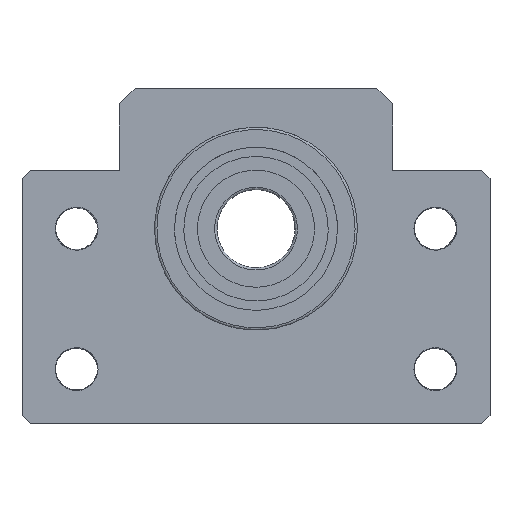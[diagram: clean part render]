
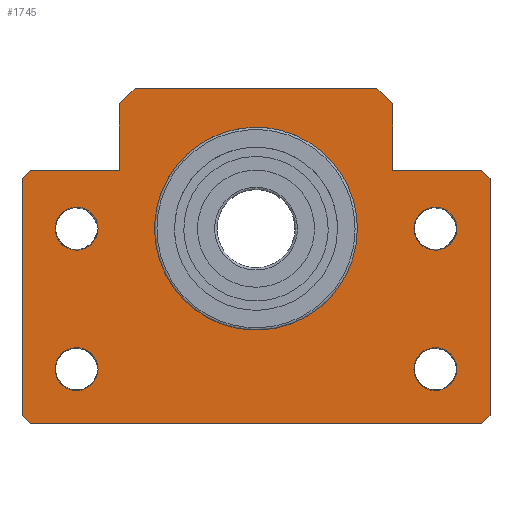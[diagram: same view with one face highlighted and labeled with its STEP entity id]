
A CAD part, front view. The second image highlights one B-rep face of the part: STEP entity #1745.
In plain terms, the highlighted free-form (B-spline) face has degree [1, 1] with [2, 2] control points.
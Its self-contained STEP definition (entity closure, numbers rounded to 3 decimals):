
#1022=CARTESIAN_POINT('',(30.,-23.95,0.));
#1023=VERTEX_POINT('',#1022);
#1024=CARTESIAN_POINT('',(28.95,-25.,0.));
#1025=VERTEX_POINT('',#1024);
#1026=CARTESIAN_POINT('',(30.,-23.95,0.));
#1027=CARTESIAN_POINT('',(28.95,-25.,0.));
#1028=B_SPLINE_CURVE_WITH_KNOTS('',1,(#1026,#1027),.POLYLINE_FORM.,.F.,.U.,(2,2),(0.,1.),.UNSPECIFIED.);
#1029=EDGE_CURVE('',#1023,#1025,#1028,.T.);
#1058=CARTESIAN_POINT('',(30.,6.45,0.));
#1059=VERTEX_POINT('',#1058);
#1060=CARTESIAN_POINT('',(30.,6.45,0.));
#1061=CARTESIAN_POINT('',(30.,-23.95,0.));
#1062=B_SPLINE_CURVE_WITH_KNOTS('',1,(#1060,#1061),.POLYLINE_FORM.,.F.,.U.,(2,2),(0.,1.),.UNSPECIFIED.);
#1063=EDGE_CURVE('',#1059,#1023,#1062,.T.);
#1086=CARTESIAN_POINT('',(-28.95,-25.,0.));
#1087=VERTEX_POINT('',#1086);
#1088=CARTESIAN_POINT('',(28.95,-25.,0.));
#1089=CARTESIAN_POINT('',(-28.95,-25.,0.));
#1090=B_SPLINE_CURVE_WITH_KNOTS('',1,(#1088,#1089),.POLYLINE_FORM.,.F.,.U.,(2,2),(0.,1.),.UNSPECIFIED.);
#1091=EDGE_CURVE('',#1025,#1087,#1090,.T.);
#1146=CARTESIAN_POINT('',(-30.,-23.95,0.));
#1147=VERTEX_POINT('',#1146);
#1148=CARTESIAN_POINT('',(-30.,6.45,0.));
#1149=VERTEX_POINT('',#1148);
#1150=CARTESIAN_POINT('',(-30.,-23.95,0.));
#1151=CARTESIAN_POINT('',(-30.,6.45,0.));
#1152=B_SPLINE_CURVE_WITH_KNOTS('',1,(#1150,#1151),.POLYLINE_FORM.,.F.,.U.,(2,2),(0.,1.),.UNSPECIFIED.);
#1153=EDGE_CURVE('',#1147,#1149,#1152,.T.);
#1182=CARTESIAN_POINT('',(-28.95,-25.,0.));
#1183=CARTESIAN_POINT('',(-30.,-23.95,0.));
#1184=B_SPLINE_CURVE_WITH_KNOTS('',1,(#1182,#1183),.POLYLINE_FORM.,.F.,.U.,(2,2),(0.,1.),.UNSPECIFIED.);
#1185=EDGE_CURVE('',#1087,#1147,#1184,.T.);
#1202=CARTESIAN_POINT('',(28.95,7.5,0.));
#1203=VERTEX_POINT('',#1202);
#1204=CARTESIAN_POINT('',(28.95,7.5,0.));
#1205=CARTESIAN_POINT('',(30.,6.45,0.));
#1206=B_SPLINE_CURVE_WITH_KNOTS('',1,(#1204,#1205),.POLYLINE_FORM.,.F.,.U.,(2,2),(0.,1.),.UNSPECIFIED.);
#1207=EDGE_CURVE('',#1203,#1059,#1206,.T.);
#1230=CARTESIAN_POINT('',(17.5,7.5,0.));
#1231=VERTEX_POINT('',#1230);
#1232=CARTESIAN_POINT('',(17.5,7.5,0.));
#1233=CARTESIAN_POINT('',(28.95,7.5,0.));
#1234=B_SPLINE_CURVE_WITH_KNOTS('',1,(#1232,#1233),.POLYLINE_FORM.,.F.,.U.,(2,2),(0.,1.),.UNSPECIFIED.);
#1235=EDGE_CURVE('',#1231,#1203,#1234,.T.);
#1274=CARTESIAN_POINT('',(17.5,16.,0.));
#1275=VERTEX_POINT('',#1274);
#1276=CARTESIAN_POINT('',(17.5,16.,0.));
#1277=CARTESIAN_POINT('',(17.5,7.5,0.));
#1278=B_SPLINE_CURVE_WITH_KNOTS('',1,(#1276,#1277),.POLYLINE_FORM.,.F.,.U.,(2,2),(0.,1.),.UNSPECIFIED.);
#1279=EDGE_CURVE('',#1275,#1231,#1278,.T.);
#1302=CARTESIAN_POINT('',(15.5,18.,0.));
#1303=VERTEX_POINT('',#1302);
#1304=CARTESIAN_POINT('',(15.5,18.,0.));
#1305=CARTESIAN_POINT('',(17.5,16.,0.));
#1306=B_SPLINE_CURVE_WITH_KNOTS('',1,(#1304,#1305),.POLYLINE_FORM.,.F.,.U.,(2,2),(0.,1.),.UNSPECIFIED.);
#1307=EDGE_CURVE('',#1303,#1275,#1306,.T.);
#1330=CARTESIAN_POINT('',(-15.5,18.,0.));
#1331=VERTEX_POINT('',#1330);
#1332=CARTESIAN_POINT('',(-15.5,18.,0.));
#1333=CARTESIAN_POINT('',(15.5,18.,0.));
#1334=B_SPLINE_CURVE_WITH_KNOTS('',1,(#1332,#1333),.POLYLINE_FORM.,.F.,.U.,(2,2),(0.,1.),.UNSPECIFIED.);
#1335=EDGE_CURVE('',#1331,#1303,#1334,.T.);
#1358=CARTESIAN_POINT('',(-17.5,16.,0.));
#1359=VERTEX_POINT('',#1358);
#1360=CARTESIAN_POINT('',(-17.5,16.,0.));
#1361=CARTESIAN_POINT('',(-15.5,18.,0.));
#1362=B_SPLINE_CURVE_WITH_KNOTS('',1,(#1360,#1361),.POLYLINE_FORM.,.F.,.U.,(2,2),(0.,1.),.UNSPECIFIED.);
#1363=EDGE_CURVE('',#1359,#1331,#1362,.T.);
#1386=CARTESIAN_POINT('',(-17.5,7.5,0.));
#1387=VERTEX_POINT('',#1386);
#1388=CARTESIAN_POINT('',(-17.5,7.5,0.));
#1389=CARTESIAN_POINT('',(-17.5,16.,0.));
#1390=B_SPLINE_CURVE_WITH_KNOTS('',1,(#1388,#1389),.POLYLINE_FORM.,.F.,.U.,(2,2),(0.,1.),.UNSPECIFIED.);
#1391=EDGE_CURVE('',#1387,#1359,#1390,.T.);
#1414=CARTESIAN_POINT('',(-28.95,7.5,0.));
#1415=VERTEX_POINT('',#1414);
#1416=CARTESIAN_POINT('',(-28.95,7.5,0.));
#1417=CARTESIAN_POINT('',(-17.5,7.5,0.));
#1418=B_SPLINE_CURVE_WITH_KNOTS('',1,(#1416,#1417),.POLYLINE_FORM.,.F.,.U.,(2,2),(0.,1.),.UNSPECIFIED.);
#1419=EDGE_CURVE('',#1415,#1387,#1418,.T.);
#1458=CARTESIAN_POINT('',(-30.,6.45,0.));
#1459=CARTESIAN_POINT('',(-28.95,7.5,0.));
#1460=B_SPLINE_CURVE_WITH_KNOTS('',1,(#1458,#1459),.POLYLINE_FORM.,.F.,.U.,(2,2),(0.,1.),.UNSPECIFIED.);
#1461=EDGE_CURVE('',#1149,#1415,#1460,.T.);
#1642=CARTESIAN_POINT('',(13.,0.,0.));
#1643=VERTEX_POINT('',#1642);
#1649=CARTESIAN_POINT('',(13.,0.,0.));
#1650=CARTESIAN_POINT('',(13.,-13.,0.));
#1651=CARTESIAN_POINT('',(0.,-13.,0.));
#1652=CARTESIAN_POINT('',(-13.,-13.,0.));
#1653=CARTESIAN_POINT('',(-13.,0.,0.));
#1654=CARTESIAN_POINT('',(-13.,13.,0.));
#1655=CARTESIAN_POINT('',(0.,13.,0.));
#1656=CARTESIAN_POINT('',(13.,13.,0.));
#1657=CARTESIAN_POINT('',(13.,0.,0.));
#1658=(BOUNDED_CURVE()B_SPLINE_CURVE(2,(#1649,#1650,#1651,#1652,#1653,#1654,#1655,#1656,#1657),.UNSPECIFIED.,.T.,.U.)B_SPLINE_CURVE_WITH_KNOTS((3,2,2,2,3),(0.,0.25,0.5,0.75,1.),.UNSPECIFIED.)CURVE()GEOMETRIC_REPRESENTATION_ITEM()RATIONAL_B_SPLINE_CURVE((1.,0.707,1.,0.707,1.,0.707,1.,0.707,1.))REPRESENTATION_ITEM(''));
#1659=EDGE_CURVE('',#1643,#1643,#1658,.T.);
#1665=CARTESIAN_POINT('',(-77.317,-77.317,0.));
#1666=CARTESIAN_POINT('',(-77.317,77.317,0.));
#1667=CARTESIAN_POINT('',(77.317,-77.317,0.));
#1668=CARTESIAN_POINT('',(77.317,77.317,0.));
#1669=B_SPLINE_SURFACE_WITH_KNOTS('',1,1,((#1665,#1666),(#1667,#1668)),.PLANE_SURF.,.F.,.F.,.U.,(2,2),(2,2),(0.,1.),(0.,1.),.UNSPECIFIED.);
#1670=ORIENTED_EDGE('',*,*,#1153,.F.);
#1671=ORIENTED_EDGE('',*,*,#1185,.F.);
#1672=ORIENTED_EDGE('',*,*,#1091,.F.);
#1673=ORIENTED_EDGE('',*,*,#1029,.F.);
#1674=ORIENTED_EDGE('',*,*,#1063,.F.);
#1675=ORIENTED_EDGE('',*,*,#1207,.F.);
#1676=ORIENTED_EDGE('',*,*,#1235,.F.);
#1677=ORIENTED_EDGE('',*,*,#1279,.F.);
#1678=ORIENTED_EDGE('',*,*,#1307,.F.);
#1679=ORIENTED_EDGE('',*,*,#1335,.F.);
#1680=ORIENTED_EDGE('',*,*,#1363,.F.);
#1681=ORIENTED_EDGE('',*,*,#1391,.F.);
#1682=ORIENTED_EDGE('',*,*,#1419,.F.);
#1683=ORIENTED_EDGE('',*,*,#1461,.F.);
#1684=EDGE_LOOP('',(#1670,#1671,#1672,#1673,#1674,#1675,#1676,#1677,#1678,#1679,#1680,#1681,#1682,#1683));
#1685=FACE_OUTER_BOUND('',#1684,.T.);
#1686=ORIENTED_EDGE('',*,*,#1659,.T.);
#1687=EDGE_LOOP('',(#1686));
#1688=FACE_BOUND('',#1687,.T.);
#1689=CARTESIAN_POINT('',(-20.25,-18.,0.));
#1690=VERTEX_POINT('',#1689);
#1691=CARTESIAN_POINT('',(-20.25,-18.,0.));
#1692=CARTESIAN_POINT('',(-20.25,-13.237,0.));
#1693=CARTESIAN_POINT('',(-24.375,-15.618,0.));
#1694=CARTESIAN_POINT('',(-28.5,-18.,0.));
#1695=CARTESIAN_POINT('',(-24.375,-20.382,0.));
#1696=CARTESIAN_POINT('',(-20.25,-22.763,0.));
#1697=CARTESIAN_POINT('',(-20.25,-18.,0.));
#1698=(BOUNDED_CURVE()B_SPLINE_CURVE(2,(#1691,#1692,#1693,#1694,#1695,#1696,#1697),.CIRCULAR_ARC.,.T.,.U.)B_SPLINE_CURVE_WITH_KNOTS((3,2,2,3),(0.,0.333,0.667,1.),.UNSPECIFIED.)CURVE()GEOMETRIC_REPRESENTATION_ITEM()RATIONAL_B_SPLINE_CURVE((1.,0.5,1.,0.5,1.,0.5,1.))REPRESENTATION_ITEM(''));
#1699=EDGE_CURVE('',#1690,#1690,#1698,.T.);
#1700=ORIENTED_EDGE('',*,*,#1699,.F.);
#1701=EDGE_LOOP('',(#1700));
#1702=FACE_BOUND('',#1701,.T.);
#1703=CARTESIAN_POINT('',(25.75,-18.,0.));
#1704=VERTEX_POINT('',#1703);
#1705=CARTESIAN_POINT('',(25.75,-18.,0.));
#1706=CARTESIAN_POINT('',(25.75,-13.237,0.));
#1707=CARTESIAN_POINT('',(21.625,-15.618,0.));
#1708=CARTESIAN_POINT('',(17.5,-18.,0.));
#1709=CARTESIAN_POINT('',(21.625,-20.382,0.));
#1710=CARTESIAN_POINT('',(25.75,-22.763,0.));
#1711=CARTESIAN_POINT('',(25.75,-18.,0.));
#1712=(BOUNDED_CURVE()B_SPLINE_CURVE(2,(#1705,#1706,#1707,#1708,#1709,#1710,#1711),.CIRCULAR_ARC.,.T.,.U.)B_SPLINE_CURVE_WITH_KNOTS((3,2,2,3),(0.,0.333,0.667,1.),.UNSPECIFIED.)CURVE()GEOMETRIC_REPRESENTATION_ITEM()RATIONAL_B_SPLINE_CURVE((1.,0.5,1.,0.5,1.,0.5,1.))REPRESENTATION_ITEM(''));
#1713=EDGE_CURVE('',#1704,#1704,#1712,.T.);
#1714=ORIENTED_EDGE('',*,*,#1713,.F.);
#1715=EDGE_LOOP('',(#1714));
#1716=FACE_BOUND('',#1715,.T.);
#1717=CARTESIAN_POINT('',(-20.25,0.,0.));
#1718=VERTEX_POINT('',#1717);
#1719=CARTESIAN_POINT('',(-20.25,0.,0.));
#1720=CARTESIAN_POINT('',(-20.25,4.763,0.));
#1721=CARTESIAN_POINT('',(-24.375,2.382,0.));
#1722=CARTESIAN_POINT('',(-28.5,0.,0.));
#1723=CARTESIAN_POINT('',(-24.375,-2.382,0.));
#1724=CARTESIAN_POINT('',(-20.25,-4.763,0.));
#1725=CARTESIAN_POINT('',(-20.25,0.,0.));
#1726=(BOUNDED_CURVE()B_SPLINE_CURVE(2,(#1719,#1720,#1721,#1722,#1723,#1724,#1725),.CIRCULAR_ARC.,.T.,.U.)B_SPLINE_CURVE_WITH_KNOTS((3,2,2,3),(0.,0.333,0.667,1.),.UNSPECIFIED.)CURVE()GEOMETRIC_REPRESENTATION_ITEM()RATIONAL_B_SPLINE_CURVE((1.,0.5,1.,0.5,1.,0.5,1.))REPRESENTATION_ITEM(''));
#1727=EDGE_CURVE('',#1718,#1718,#1726,.T.);
#1728=ORIENTED_EDGE('',*,*,#1727,.F.);
#1729=EDGE_LOOP('',(#1728));
#1730=FACE_BOUND('',#1729,.T.);
#1731=CARTESIAN_POINT('',(25.75,0.,0.));
#1732=VERTEX_POINT('',#1731);
#1733=CARTESIAN_POINT('',(25.75,0.,0.));
#1734=CARTESIAN_POINT('',(25.75,4.763,0.));
#1735=CARTESIAN_POINT('',(21.625,2.382,0.));
#1736=CARTESIAN_POINT('',(17.5,0.,0.));
#1737=CARTESIAN_POINT('',(21.625,-2.382,0.));
#1738=CARTESIAN_POINT('',(25.75,-4.763,0.));
#1739=CARTESIAN_POINT('',(25.75,0.,0.));
#1740=(BOUNDED_CURVE()B_SPLINE_CURVE(2,(#1733,#1734,#1735,#1736,#1737,#1738,#1739),.CIRCULAR_ARC.,.T.,.U.)B_SPLINE_CURVE_WITH_KNOTS((3,2,2,3),(0.,0.333,0.667,1.),.UNSPECIFIED.)CURVE()GEOMETRIC_REPRESENTATION_ITEM()RATIONAL_B_SPLINE_CURVE((1.,0.5,1.,0.5,1.,0.5,1.))REPRESENTATION_ITEM(''));
#1741=EDGE_CURVE('',#1732,#1732,#1740,.T.);
#1742=ORIENTED_EDGE('',*,*,#1741,.F.);
#1743=EDGE_LOOP('',(#1742));
#1744=FACE_BOUND('',#1743,.T.);
#1745=ADVANCED_FACE('',(#1685,#1688,#1702,#1716,#1730,#1744),#1669,.T.);
